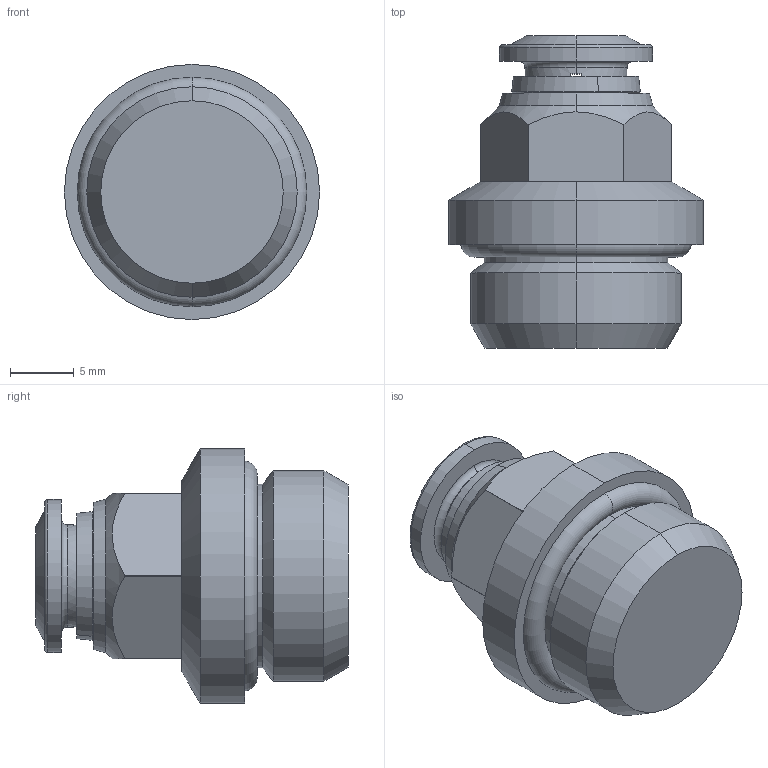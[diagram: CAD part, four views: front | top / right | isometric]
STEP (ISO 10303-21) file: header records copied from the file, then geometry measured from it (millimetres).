
FILE_DESCRIPTION (( 'STEP AP214' ), '1' );
FILE_NAME ('5702000027A.STEP', '2021-04-07T09:28:53', ( 'admin' ), ( '' ), 'SwSTEP 2.0', 'SolidWorks 2016', '' );
FILE_SCHEMA (( 'AUTOMOTIVE_DESIGN' ));
Length unit declared in the file: millimetre
Products named in the file (1): 5702000027A
Bounding box: 20 x 24.5 x 20 mm (x, y, z)
Volume: 3943.6 mm3; surface area: 2147.4 mm2
Topology: 1 solids, 1 shells, 67 faces, 168 edges, 106 vertices
Faces by surface type: cone 22, plane 21, cylinder 18, torus 6
Entity records: 2130 total; most frequent: CARTESIAN_POINT 454, DIRECTION 362, ORIENTED_EDGE 336, EDGE_CURVE 168, AXIS2_PLACEMENT_3D 146, VERTEX_POINT 106, CIRCLE 78, EDGE_LOOP 74
